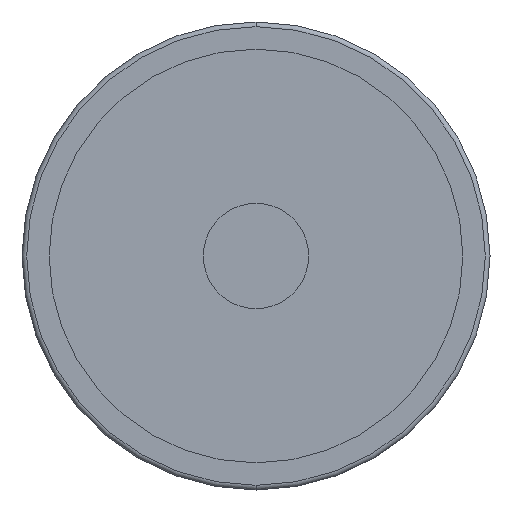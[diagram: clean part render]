
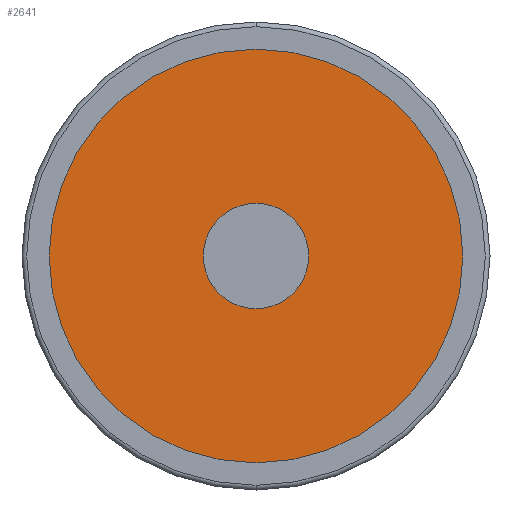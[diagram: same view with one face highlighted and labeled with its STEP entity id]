
A CAD part, front view. The second image highlights one B-rep face of the part: STEP entity #2641.
In plain terms, the highlighted planar face has unit normal (0, -1, 0).
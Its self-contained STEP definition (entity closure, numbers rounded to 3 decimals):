
#1 = CARTESIAN_POINT ( 'NONE',  ( 0., 4.5, 0. ) ) ;
#18 = DIRECTION ( 'NONE',  ( 1., 0., 0. ) ) ;
#82 = CARTESIAN_POINT ( 'NONE',  ( 0., 4.5, 0. ) ) ;
#160 = ORIENTED_EDGE ( 'NONE', *, *, #1691, .F. ) ;
#170 = DIRECTION ( 'NONE',  ( 0., -1., 0. ) ) ;
#185 = CARTESIAN_POINT ( 'NONE',  ( -44.3, 4.5, 0. ) ) ;
#212 = DIRECTION ( 'NONE',  ( 1., 0., 0. ) ) ;
#302 = CARTESIAN_POINT ( 'NONE',  ( -10.25, 4.5, 0. ) ) ;
#353 = CIRCLE ( 'NONE', #1254, 44.3 ) ;
#437 = CARTESIAN_POINT ( 'NONE',  ( 10.25, 4.5, 0. ) ) ;
#445 = PLANE ( 'NONE',  #1621 ) ;
#590 = CARTESIAN_POINT ( 'NONE',  ( 0., 4.5, 0. ) ) ;
#666 = FACE_BOUND ( 'NONE', #2674, .T. ) ;
#733 = ORIENTED_EDGE ( 'NONE', *, *, #1859, .T. ) ;
#782 = DIRECTION ( 'NONE',  ( 0., -1., 0. ) ) ;
#900 = EDGE_CURVE ( 'NONE', #2217, #3043, #1801, .T. ) ;
#1038 = VERTEX_POINT ( 'NONE', #2505 ) ;
#1198 = DIRECTION ( 'NONE',  ( 1., 0., 0. ) ) ;
#1254 = AXIS2_PLACEMENT_3D ( 'NONE', #1, #782, #18 ) ;
#1257 = CIRCLE ( 'NONE', #3081, 10.25 ) ;
#1262 = CARTESIAN_POINT ( 'NONE',  ( 44.3, 4.5, 0. ) ) ;
#1447 = EDGE_CURVE ( 'NONE', #1038, #2349, #353, .T. ) ;
#1466 = AXIS2_PLACEMENT_3D ( 'NONE', #82, #2093, #2872 ) ;
#1598 = DIRECTION ( 'NONE',  ( 1., 0., 0. ) ) ;
#1621 = AXIS2_PLACEMENT_3D ( 'NONE', #185, #170, #1198 ) ;
#1691 = EDGE_CURVE ( 'NONE', #3043, #2217, #1257, .T. ) ;
#1733 = CARTESIAN_POINT ( 'NONE',  ( 0., 4.5, 0. ) ) ;
#1801 = CIRCLE ( 'NONE', #1909, 10.25 ) ;
#1859 = EDGE_CURVE ( 'NONE', #2349, #1038, #2303, .T. ) ;
#1909 = AXIS2_PLACEMENT_3D ( 'NONE', #590, #2134, #1598 ) ;
#1962 = DIRECTION ( 'NONE',  ( 0., -1., 0. ) ) ;
#2093 = DIRECTION ( 'NONE',  ( 0., -1., 0. ) ) ;
#2125 = EDGE_LOOP ( 'NONE', ( #2285, #733 ) ) ;
#2134 = DIRECTION ( 'NONE',  ( 0., -1., 0. ) ) ;
#2217 = VERTEX_POINT ( 'NONE', #302 ) ;
#2285 = ORIENTED_EDGE ( 'NONE', *, *, #1447, .T. ) ;
#2303 = CIRCLE ( 'NONE', #1466, 44.3 ) ;
#2349 = VERTEX_POINT ( 'NONE', #1262 ) ;
#2505 = CARTESIAN_POINT ( 'NONE',  ( -44.3, 4.5, 0. ) ) ;
#2641 = ADVANCED_FACE ( 'NONE', ( #2927, #666 ), #445, .T. ) ;
#2674 = EDGE_LOOP ( 'NONE', ( #160, #3159 ) ) ;
#2872 = DIRECTION ( 'NONE',  ( 1., 0., 0. ) ) ;
#2927 = FACE_OUTER_BOUND ( 'NONE', #2125, .T. ) ;
#3043 = VERTEX_POINT ( 'NONE', #437 ) ;
#3081 = AXIS2_PLACEMENT_3D ( 'NONE', #1733, #1962, #212 ) ;
#3159 = ORIENTED_EDGE ( 'NONE', *, *, #900, .F. ) ;
